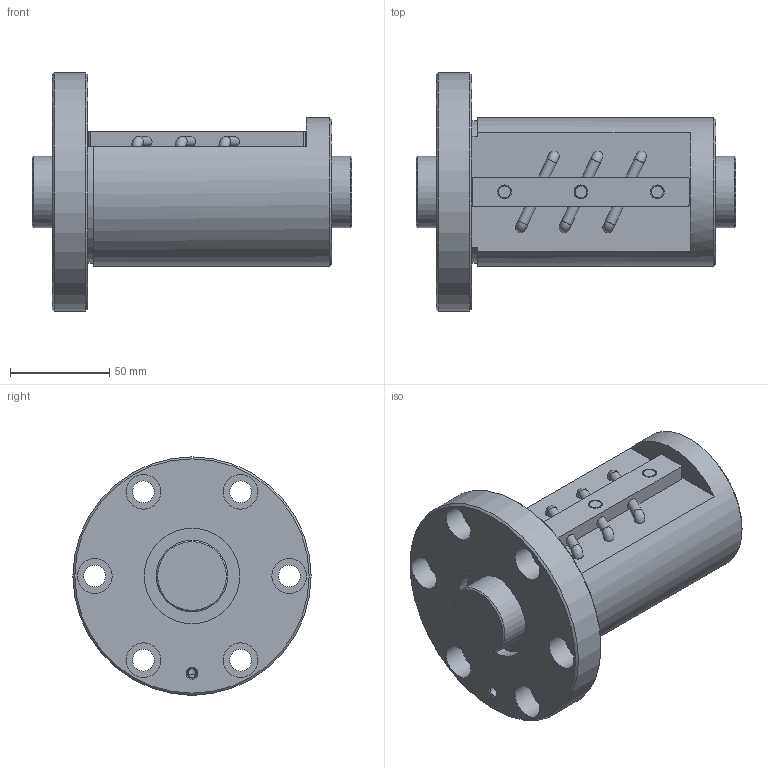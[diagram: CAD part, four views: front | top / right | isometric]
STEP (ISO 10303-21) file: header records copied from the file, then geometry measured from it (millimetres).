
FILE_DESCRIPTION(/* description */ ('STEP AP203'),/* implementation_level */ '2;1');
FILE_NAME(/* name */ 'BNF3610V-7.5RRG1+161LC0_000_rev',/* time_stamp */ '2024-08-06T08:39:16+02:00',/* author */ ('License CC BY-ND 4.0'),/* organization */ ('CADENAS'),/* preprocessor_version */ 'ST-DEVELOPER v19.3',/* originating_system */ 'PARTsolutions',/* authorisation */ ' ');
FILE_SCHEMA (('CONFIG_CONTROL_DESIGN'));
Length unit declared in the file: millimetre
Products named in the file (3): BNF3610V-7.5RRG1+161LC0_000_rev; BNF 3610-7.5RR000 Shaft; BNF 3610-7.5RR Nut
Assembly tree (2 placements, depth 2):
  BNF3610V-7.5RRG1+161LC0_000_rev
    BNF 3610-7.5RR000 Shaft
    BNF 3610-7.5RR Nut
Bounding box: 161 x 120 x 120 mm (x, y, z)
Volume: 683158.9 mm3; surface area: 100903.6 mm2
Topology: 2 solids, 2 shells, 84 faces, 194 edges, 128 vertices
Faces by surface type: cylinder 41, plane 30, cone 7, torus 6
Full cylindrical faces by diameter (mm): 4.5 x2, 4.917 x1, 5.198 x6, 6 x3, 7 x3, 11 x6, 17.5 x6, 36 x2, 48 x2, 75 x1, 120 x1
Entity records: 2173 total; most frequent: CARTESIAN_POINT 383, DIRECTION 382, ORIENTED_EDGE 252, AXIS2_PLACEMENT_3D 177, EDGE_LOOP 174, FACE_BOUND 174, EDGE_CURVE 126, VERTEX_POINT 108
